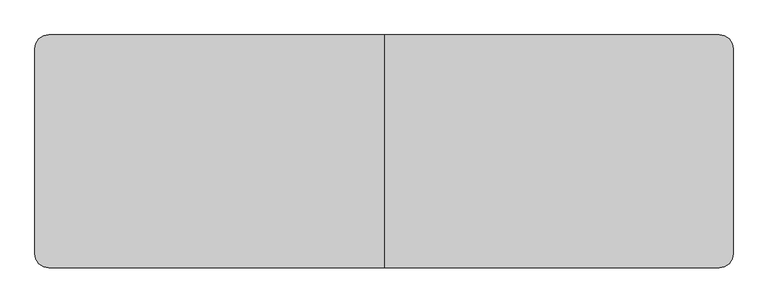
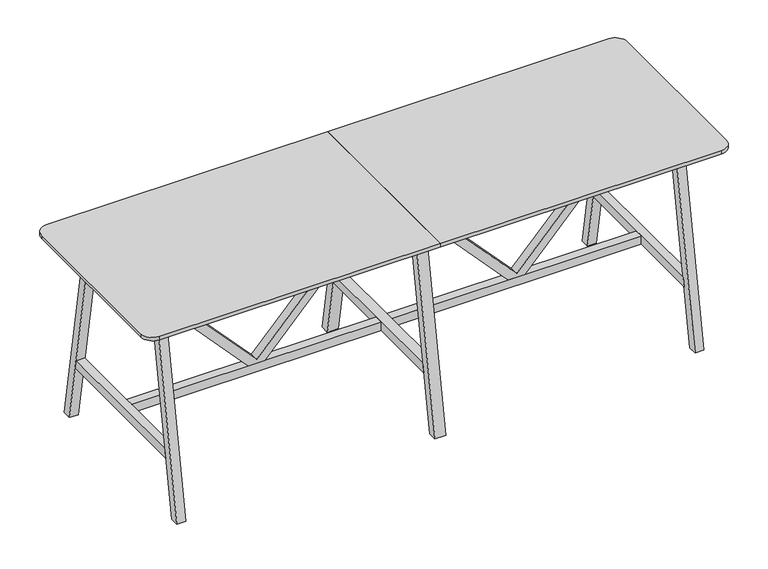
"""IFC4 building model written with IfcOpenShell, lengths in millimetres: furniture geometry, BDG_BossDesign_Tbls_AgentTables6Legs : AGE-HT-6L-3000-1000-3D."""

from ifc_helpers import new_model, si_unit, point, frame, frame_2d, origin, place, context, project, spatial, polyline, circle_curve, trimmed, segment, composite_curve, outline, extrude, source, transform, mapped, element, save


def furniture_515d8d24(model_context):
    return source(origin(), model_context, "Body", "SweptSolid", [
        extrude(outline(polyline([(345.0, 624.0823957), (345.0, 708.4176043), (992.0, 1305.0), (1032.0, 1305.0), (1032.0, 1285.0), (365.0, 666.25), (1032.0, 47.5), (1032.0, 27.5), (992.0, 27.5), (345.0, 624.0823957)])), frame((0.0, -22.5000305, 0.0), z_axis=(0.0, 1.0, 0.0), x_axis=(0.0, 0.0, 1.0)), (0.0, 0.0, 1.0), 45.000061),
        extrude(outline(polyline([(345.0, -624.0823957), (992.0, -27.5), (1032.0, -27.5), (1032.0, -47.5), (365.0, -666.25), (1032.0, -1285.0), (1032.0, -1305.0), (992.0, -1305.0), (345.0, -708.4176043), (345.0, -624.0823957)])), frame((0.0, -22.5000305, 0.0), z_axis=(0.0, 1.0, 0.0), x_axis=(0.0, 0.0, 1.0)), (0.0, 0.0, 1.0), 45.000061),
        extrude(outline(polyline([(500.0, 0.0), (454.9999949, 0.0), (285.5, 970.0), (330.5000051, 970.0), (500.0, 0.0)])), frame((-27.5, 0.0, 0.0), z_axis=(1.0, 0.0, 0.0), x_axis=(0.0, 1.0, 0.0)), (0.0, 0.0, 1.0), 55.0),
        extrude(outline(polyline([(-500.0, 0.0), (-330.5000051, 970.0), (-285.5, 970.0), (-454.9999949, 0.0), (-500.0, 0.0)])), frame((-27.5, 0.0, 0.0), z_axis=(1.0, 0.0, 0.0), x_axis=(0.0, 1.0, 0.0)), (0.0, 0.0, 1.0), 55.0),
        extrude(outline(polyline([(402.5773161, 300.0), (-402.5773161, 300.0), (-394.7139143, 345.0), (394.7139143, 345.0), (402.5773161, 300.0)])), frame((-27.5, 0.0, 0.0), z_axis=(1.0, 0.0, 0.0), x_axis=(0.0, 1.0, 0.0)), (0.0, 0.0, 1.0), 55.0),
        extrude(outline(composite_curve([segment(polyline([(0.0, 500.0), (0.0, -500.0), (-1440.0, -500.0)]), True, "CONTINUOUS"), segment(trimmed(circle_curve(frame_2d((-1440.0, -440.0)), 60.0), [point((-1440.0, -500.0))], [point((-1500.0, -440.0))], False, "CARTESIAN"), True, "CONTINUOUS"), segment(polyline([(-1500.0, -440.0), (-1500.0, 440.0)]), True, "CONTINUOUS"), segment(trimmed(circle_curve(frame_2d((-1440.0, 440.0)), 60.0), [point((-1500.0, 440.0))], [point((-1440.0, 500.0))], False, "CARTESIAN"), True, "CONTINUOUS"), segment(polyline([(-1440.0, 500.0), (0.0, 500.0)]), True, "CONTINUOUS")], self_intersect=False)), frame((0.0, 0.0, 1032.0), z_axis=(0.0, 0.0, 1.0), x_axis=(1.0, 0.0, 0.0)), (0.0, 0.0, 1.0), 18.0),
        extrude(outline(polyline([(-394.7139143, 345.0), (394.7139143, 345.0), (402.5773161, 300.0), (-402.5773161, 300.0), (-394.7139143, 345.0)])), frame((1305.0, 0.0, 0.0), z_axis=(1.0, 0.0, 0.0), x_axis=(0.0, 1.0, 0.0)), (0.0, 0.0, 1.0), 45.0),
        extrude(outline(polyline([(500.0, 0.0), (454.9999949, 0.0), (285.5, 970.0), (330.5000051, 970.0), (500.0, 0.0)])), frame((-1350.0, 0.0, 0.0), z_axis=(1.0, 0.0, 0.0), x_axis=(0.0, 1.0, 0.0)), (0.0, 0.0, 1.0), 45.0),
        extrude(outline(polyline([(-500.0, 0.0), (-330.5000051, 970.0), (-285.5, 970.0), (-454.9999949, 0.0), (-500.0, 0.0)])), frame((-1350.0, 0.0, 0.0), z_axis=(1.0, 0.0, 0.0), x_axis=(0.0, 1.0, 0.0)), (0.0, 0.0, 1.0), 45.0),
        extrude(outline(polyline([(-394.7139143, 345.0), (394.7139143, 345.0), (402.5773161, 300.0), (-402.5773161, 300.0), (-394.7139143, 345.0)])), frame((-1350.0, 0.0, 0.0), z_axis=(1.0, 0.0, 0.0), x_axis=(0.0, 1.0, 0.0)), (0.0, 0.0, 1.0), 45.0),
        extrude(outline(polyline([(-326.6006165, 944.973938), (-304.2770691, 1032.0), (-279.5, 1032.0), (-301.8235474, 944.973938), (-326.6006165, 944.973938)])), frame((-1305.0, 0.0, 0.0), z_axis=(1.0, 0.0, 0.0), x_axis=(0.0, 1.0, 0.0)), (0.0, 0.0, 1.0), 2610.0),
        extrude(outline(polyline([(326.6006165, 944.973938), (301.8235474, 944.973938), (279.5, 1032.0), (304.2770691, 1032.0), (326.6006165, 944.973938)])), frame((-1305.0, 0.0, 0.0), z_axis=(1.0, 0.0, 0.0), x_axis=(0.0, 1.0, 0.0)), (0.0, 0.0, 1.0), 2610.0),
        extrude(outline(polyline([(499.7999878, 0.0), (454.7999827, 0.0), (285.5, 970.0), (330.5000051, 970.0), (499.7999878, 0.0)])), frame((1305.0, 0.0, 0.0), z_axis=(1.0, 0.0, 0.0), x_axis=(0.0, 1.0, 0.0)), (0.0, 0.0, 1.0), 45.0),
        extrude(outline(polyline([(-499.7999878, 0.0), (-330.5000051, 970.0), (-285.5, 970.0), (-454.7999827, 0.0), (-499.7999878, 0.0)])), frame((1305.0, 0.0, 0.0), z_axis=(1.0, 0.0, 0.0), x_axis=(0.0, 1.0, 0.0)), (0.0, 0.0, 1.0), 45.0),
        extrude(outline(polyline([(-27.5, 22.5000305), (-27.5, -22.5000305), (-1305.0, -22.5000305), (-1305.0, 22.5000305), (-27.5, 22.5000305)])), frame((0.0, 0.0, 300.0), z_axis=(0.0, 0.0, 1.0), x_axis=(1.0, 0.0, 0.0)), (0.0, 0.0, 1.0), 45.0),
        extrude(outline(polyline([(27.5, -22.5000305), (27.5, 22.5000305), (1305.0, 22.5000305), (1305.0, -22.5000305), (27.5, -22.5000305)])), frame((0.0, 0.0, 300.0), z_axis=(0.0, 0.0, 1.0), x_axis=(1.0, 0.0, 0.0)), (0.0, 0.0, 1.0), 45.0),
        extrude(outline(composite_curve([segment(trimmed(circle_curve(frame_2d((1440.0, 440.0)), 60.0), [point((1440.0, 500.0))], [point((1500.0, 440.0))], False, "CARTESIAN"), True, "CONTINUOUS"), segment(polyline([(1500.0, 440.0), (1500.0, -440.0)]), True, "CONTINUOUS"), segment(trimmed(circle_curve(frame_2d((1440.0, -440.0)), 60.0), [point((1500.0, -440.0))], [point((1440.0, -500.0))], False, "CARTESIAN"), True, "CONTINUOUS"), segment(polyline([(1440.0, -500.0), (0.0, -500.0), (0.0, 500.0), (1440.0, 500.0)]), True, "CONTINUOUS")], self_intersect=False)), frame((0.0, 0.0, 1032.0), z_axis=(0.0, 0.0, 1.0), x_axis=(1.0, 0.0, 0.0)), (0.0, 0.0, 1.0), 18.0),
    ])


if __name__ == "__main__":
    model = new_model("IFC4")
    model_context = context("Model", 3, world=origin())
    ifc_project = project(units=[si_unit("LENGTHUNIT", "METRE", prefix="MILLI")], contexts=[model_context])
    site = spatial("IfcSite", under=ifc_project)
    building = spatial("IfcBuilding", under=site)
    placement = place(None, origin())
    furniture_shape = furniture_515d8d24(model_context)
    element("IfcFurniture", 1, ObjectType="BDG_BossDesign_Tbls_AgentTables6Legs : AGE-HT-6L-3000-1000-3D", at=placement, inside=building, context=model_context, shape_type="MappedRepresentation", body=[
        mapped(furniture_shape, transform((0.0, 0.0, 0.0), x_axis=(1.0, 0.0, 0.0), y_axis=(0.0, 1.0, 0.0), z_axis=(0.0, 0.0, 1.0))),
    ])
    save(model, "model.ifc")
